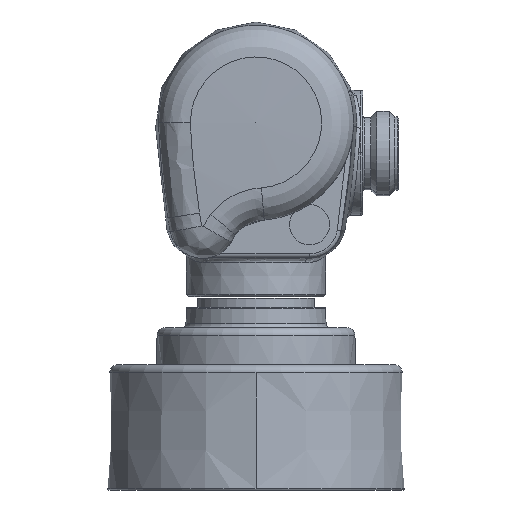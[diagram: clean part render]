
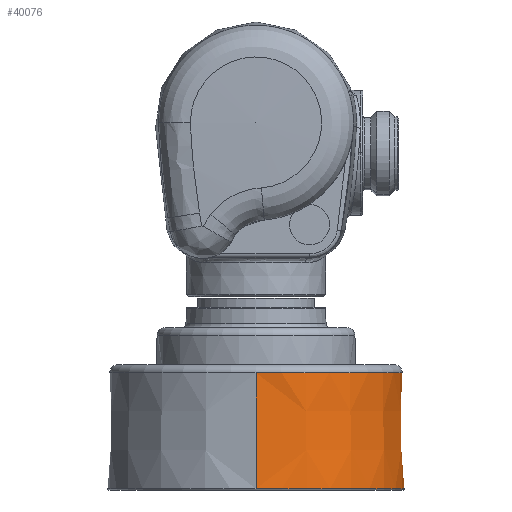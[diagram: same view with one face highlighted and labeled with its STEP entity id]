
A CAD part, left-side view. The second image highlights one B-rep face of the part: STEP entity #40076.
In plain terms, the highlighted conical face has half-angle 1 degrees and reference radius 36.2 mm.
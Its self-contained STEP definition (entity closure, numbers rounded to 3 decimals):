
#958 = DIRECTION ( 'NONE',  ( 0., 0., -1. ) ) ;
#1388 = CARTESIAN_POINT ( 'NONE',  ( 204.964, 348.327, 538.696 ) ) ;
#1500 = DIRECTION ( 'NONE',  ( 0.017, 0., -1. ) ) ;
#3599 = FACE_OUTER_BOUND ( 'NONE', #16424, .T. ) ;
#3906 = ORIENTED_EDGE ( 'NONE', *, *, #29088, .T. ) ;
#4775 = AXIS2_PLACEMENT_3D ( 'NONE', #1388, #958, #31369 ) ;
#4982 = CARTESIAN_POINT ( 'NONE',  ( 204.964, 348.327, 538.696 ) ) ;
#5568 = DIRECTION ( 'NONE',  ( 0., -1., 0. ) ) ;
#5853 = ORIENTED_EDGE ( 'NONE', *, *, #39608, .T. ) ;
#6967 = VECTOR ( 'NONE', #1500, 1000. ) ;
#8718 = CARTESIAN_POINT ( 'NONE',  ( 168.73, 348.327, 538.696 ) ) ;
#8950 = DIRECTION ( 'NONE',  ( 0., 0., -1. ) ) ;
#9298 = AXIS2_PLACEMENT_3D ( 'NONE', #26565, #16812, #24037 ) ;
#9380 = ORIENTED_EDGE ( 'NONE', *, *, #25551, .T. ) ;
#9717 = ORIENTED_EDGE ( 'NONE', *, *, #21283, .T. ) ;
#11324 = DIRECTION ( 'NONE',  ( 0., 0., 1. ) ) ;
#11649 = DIRECTION ( 'NONE',  ( -0.017, 0., -1. ) ) ;
#11835 = CARTESIAN_POINT ( 'NONE',  ( 241.164, 348.327, 540.661 ) ) ;
#14518 = DIRECTION ( 'NONE',  ( 0., 0., 1. ) ) ;
#15618 = CARTESIAN_POINT ( 'NONE',  ( 241.7, 348.327, 509.967 ) ) ;
#16424 = EDGE_LOOP ( 'NONE', ( #3906, #9380, #5853, #9717, #38067, #41399 ) ) ;
#16685 = AXIS2_PLACEMENT_3D ( 'NONE', #31561, #11324, #17864 ) ;
#16812 = DIRECTION ( 'NONE',  ( 0., 0., -1. ) ) ;
#17588 = EDGE_CURVE ( 'NONE', #42509, #22970, #29660, .T. ) ;
#17864 = DIRECTION ( 'NONE',  ( 0., 1., 0. ) ) ;
#18068 = DIRECTION ( 'NONE',  ( 0., 1., 0. ) ) ;
#20188 = CARTESIAN_POINT ( 'NONE',  ( 204.964, 311.591, 509.967 ) ) ;
#20649 = CIRCLE ( 'NONE', #16685, 36.736 ) ;
#21283 = EDGE_CURVE ( 'NONE', #24854, #34937, #38581, .T. ) ;
#21708 = CARTESIAN_POINT ( 'NONE',  ( 168.764, 348.327, 540.661 ) ) ;
#22970 = VERTEX_POINT ( 'NONE', #15618 ) ;
#24037 = DIRECTION ( 'NONE',  ( 1., 0., 0. ) ) ;
#24333 = CARTESIAN_POINT ( 'NONE',  ( 241.199, 348.327, 538.696 ) ) ;
#24649 = CARTESIAN_POINT ( 'NONE',  ( 168.229, 348.327, 509.967 ) ) ;
#24854 = VERTEX_POINT ( 'NONE', #24649 ) ;
#25551 = EDGE_CURVE ( 'NONE', #33453, #26485, #36821, .T. ) ;
#26485 = VERTEX_POINT ( 'NONE', #8718 ) ;
#26565 = CARTESIAN_POINT ( 'NONE',  ( 204.964, 348.327, 540.661 ) ) ;
#27019 = EDGE_CURVE ( 'NONE', #34937, #22970, #20649, .T. ) ;
#29088 = EDGE_CURVE ( 'NONE', #42509, #33453, #38244, .T. ) ;
#29660 = LINE ( 'NONE', #11835, #6967 ) ;
#30540 = LINE ( 'NONE', #21708, #31081 ) ;
#31081 = VECTOR ( 'NONE', #11649, 1000. ) ;
#31293 = AXIS2_PLACEMENT_3D ( 'NONE', #31623, #14518, #18068 ) ;
#31369 = DIRECTION ( 'NONE',  ( 0., -1., 0. ) ) ;
#31561 = CARTESIAN_POINT ( 'NONE',  ( 204.964, 348.327, 509.967 ) ) ;
#31623 = CARTESIAN_POINT ( 'NONE',  ( 204.964, 348.327, 509.967 ) ) ;
#33453 = VERTEX_POINT ( 'NONE', #38845 ) ;
#34937 = VERTEX_POINT ( 'NONE', #20188 ) ;
#36821 = CIRCLE ( 'NONE', #4775, 36.234 ) ;
#38067 = ORIENTED_EDGE ( 'NONE', *, *, #27019, .T. ) ;
#38244 = CIRCLE ( 'NONE', #42150, 36.234 ) ;
#38581 = CIRCLE ( 'NONE', #31293, 36.736 ) ;
#38845 = CARTESIAN_POINT ( 'NONE',  ( 204.964, 312.093, 538.696 ) ) ;
#39608 = EDGE_CURVE ( 'NONE', #26485, #24854, #30540, .T. ) ;
#40067 = CONICAL_SURFACE ( 'NONE', #9298, 36.2, 0.017 ) ;
#40076 = ADVANCED_FACE ( 'NONE', ( #3599 ), #40067, .T. ) ;
#41399 = ORIENTED_EDGE ( 'NONE', *, *, #17588, .F. ) ;
#42150 = AXIS2_PLACEMENT_3D ( 'NONE', #4982, #8950, #5568 ) ;
#42509 = VERTEX_POINT ( 'NONE', #24333 ) ;
